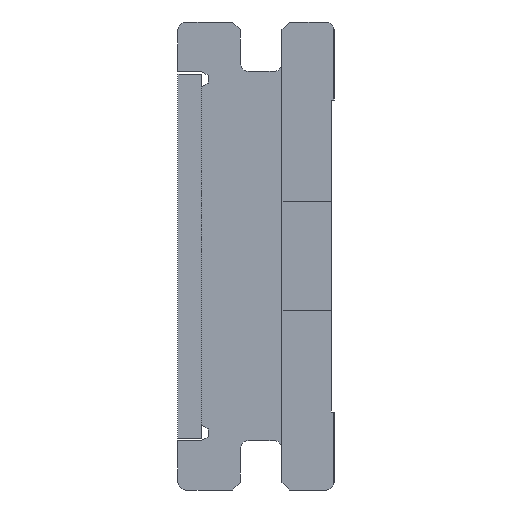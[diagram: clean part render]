
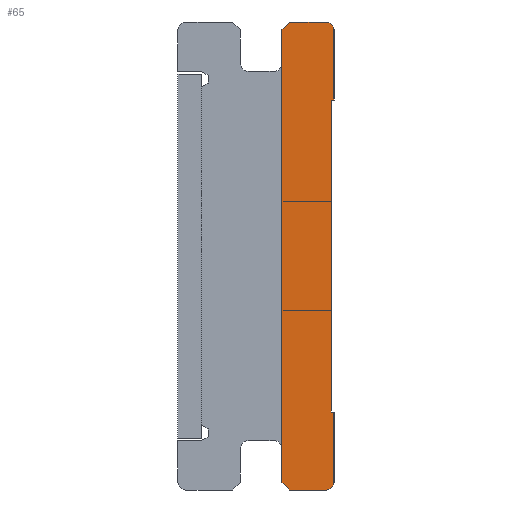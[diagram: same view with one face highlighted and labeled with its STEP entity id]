
A CAD part, left-side view. The second image highlights one B-rep face of the part: STEP entity #65.
In plain terms, the highlighted planar face has unit normal (-1, 0, 0).
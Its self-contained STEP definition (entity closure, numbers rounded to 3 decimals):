
#26 = CARTESIAN_POINT ( 'NONE',  ( 0., 0.1, -15. ) ) ;
#28 = VERTEX_POINT ( 'NONE', #537 ) ;
#55 = LINE ( 'NONE', #1929, #1156 ) ;
#65 = ADVANCED_FACE ( 'NONE', ( #2035 ), #1831, .F. ) ;
#109 = LINE ( 'NONE', #135, #1842 ) ;
#122 = CARTESIAN_POINT ( 'NONE',  ( 0., 0.3, 0. ) ) ;
#135 = CARTESIAN_POINT ( 'NONE',  ( 0., 0., -15. ) ) ;
#170 = VERTEX_POINT ( 'NONE', #1431 ) ;
#182 = LINE ( 'NONE', #937, #1981 ) ;
#188 = EDGE_CURVE ( 'NONE', #1718, #432, #1445, .T. ) ;
#201 = EDGE_LOOP ( 'NONE', ( #1046, #1067, #2402, #655, #2123, #886, #2163, #1184, #2041, #511, #1179, #1588 ) ) ;
#245 = CARTESIAN_POINT ( 'NONE',  ( 0., 1.7, -18. ) ) ;
#250 = VECTOR ( 'NONE', #1751, 1000. ) ;
#286 = CIRCLE ( 'NONE', #604, 0.3 ) ;
#299 = LINE ( 'NONE', #1409, #250 ) ;
#311 = VERTEX_POINT ( 'NONE', #574 ) ;
#315 = DIRECTION ( 'NONE',  ( 0., 0., -1. ) ) ;
#432 = VERTEX_POINT ( 'NONE', #2375 ) ;
#444 = DIRECTION ( 'NONE',  ( 0., 1., 0. ) ) ;
#505 = LINE ( 'NONE', #122, #1424 ) ;
#511 = ORIENTED_EDGE ( 'NONE', *, *, #188, .F. ) ;
#537 = CARTESIAN_POINT ( 'NONE',  ( 0., 0., -15. ) ) ;
#574 = CARTESIAN_POINT ( 'NONE',  ( 0., 2., -17.7 ) ) ;
#604 = AXIS2_PLACEMENT_3D ( 'NONE', #2331, #799, #822 ) ;
#630 = EDGE_CURVE ( 'NONE', #2379, #311, #182, .T. ) ;
#655 = ORIENTED_EDGE ( 'NONE', *, *, #2378, .F. ) ;
#684 = LINE ( 'NONE', #2032, #919 ) ;
#709 = LINE ( 'NONE', #1318, #996 ) ;
#722 = CARTESIAN_POINT ( 'NONE',  ( 0., 5.1, -15.8 ) ) ;
#730 = EDGE_CURVE ( 'NONE', #1198, #1311, #2361, .T. ) ;
#734 = DIRECTION ( 'NONE',  ( 1., 0., 0. ) ) ;
#799 = DIRECTION ( 'NONE',  ( 1., 0., 0. ) ) ;
#822 = DIRECTION ( 'NONE',  ( 0., 0., -1. ) ) ;
#864 = CIRCLE ( 'NONE', #2270, 0.3 ) ;
#886 = ORIENTED_EDGE ( 'NONE', *, *, #2117, .F. ) ;
#893 = CARTESIAN_POINT ( 'NONE',  ( 0., 0.3, 0. ) ) ;
#919 = VECTOR ( 'NONE', #2394, 1000. ) ;
#929 = EDGE_CURVE ( 'NONE', #1143, #1718, #864, .T. ) ;
#933 = CARTESIAN_POINT ( 'NONE',  ( 0., 0.3, -0.3 ) ) ;
#937 = CARTESIAN_POINT ( 'NONE',  ( 0., 1.7, -18. ) ) ;
#943 = CARTESIAN_POINT ( 'NONE',  ( 0., 0., -17.7 ) ) ;
#996 = VECTOR ( 'NONE', #1707, 1000. ) ;
#1037 = CARTESIAN_POINT ( 'NONE',  ( 0., 1.7, 0. ) ) ;
#1046 = ORIENTED_EDGE ( 'NONE', *, *, #730, .F. ) ;
#1067 = ORIENTED_EDGE ( 'NONE', *, *, #1778, .F. ) ;
#1084 = EDGE_CURVE ( 'NONE', #1311, #1143, #505, .T. ) ;
#1086 = VERTEX_POINT ( 'NONE', #2370 ) ;
#1143 = VERTEX_POINT ( 'NONE', #893 ) ;
#1156 = VECTOR ( 'NONE', #444, 1000. ) ;
#1162 = DIRECTION ( 'NONE',  ( 0., 0., -1. ) ) ;
#1179 = ORIENTED_EDGE ( 'NONE', *, *, #929, .F. ) ;
#1184 = ORIENTED_EDGE ( 'NONE', *, *, #1904, .F. ) ;
#1185 = LINE ( 'NONE', #1368, #2358 ) ;
#1198 = VERTEX_POINT ( 'NONE', #1320 ) ;
#1248 = DIRECTION ( 'NONE',  ( 0., -1., 0. ) ) ;
#1259 = VECTOR ( 'NONE', #315, 1000. ) ;
#1286 = DIRECTION ( 'NONE',  ( 1., 0., 0. ) ) ;
#1311 = VERTEX_POINT ( 'NONE', #1442 ) ;
#1318 = CARTESIAN_POINT ( 'NONE',  ( 0., 2., -17.7 ) ) ;
#1320 = CARTESIAN_POINT ( 'NONE',  ( 0., 2., -0.3 ) ) ;
#1368 = CARTESIAN_POINT ( 'NONE',  ( 0., 0.1, -3. ) ) ;
#1409 = CARTESIAN_POINT ( 'NONE',  ( 0., 0.3, -18. ) ) ;
#1424 = VECTOR ( 'NONE', #1248, 1000. ) ;
#1431 = CARTESIAN_POINT ( 'NONE',  ( 0., 0.1, -3. ) ) ;
#1442 = CARTESIAN_POINT ( 'NONE',  ( 0., 1.7, 0. ) ) ;
#1445 = LINE ( 'NONE', #1653, #1259 ) ;
#1456 = VERTEX_POINT ( 'NONE', #26 ) ;
#1475 = DIRECTION ( 'NONE',  ( 0., 0., 1. ) ) ;
#1588 = ORIENTED_EDGE ( 'NONE', *, *, #1084, .F. ) ;
#1653 = CARTESIAN_POINT ( 'NONE',  ( 0., 0., -0.3 ) ) ;
#1694 = EDGE_CURVE ( 'NONE', #1456, #28, #109, .T. ) ;
#1707 = DIRECTION ( 'NONE',  ( 0., 0., 1. ) ) ;
#1718 = VERTEX_POINT ( 'NONE', #2100 ) ;
#1751 = DIRECTION ( 'NONE',  ( 0., 1., 0. ) ) ;
#1769 = VERTEX_POINT ( 'NONE', #943 ) ;
#1778 = EDGE_CURVE ( 'NONE', #311, #1198, #709, .T. ) ;
#1829 = EDGE_CURVE ( 'NONE', #432, #170, #55, .T. ) ;
#1831 = PLANE ( 'NONE',  #2462 ) ;
#1842 = VECTOR ( 'NONE', #2398, 1000. ) ;
#1858 = VECTOR ( 'NONE', #1961, 1000. ) ;
#1860 = EDGE_CURVE ( 'NONE', #1769, #1086, #286, .T. ) ;
#1904 = EDGE_CURVE ( 'NONE', #170, #1456, #1185, .T. ) ;
#1910 = DIRECTION ( 'NONE',  ( 0., 0.707, 0.707 ) ) ;
#1929 = CARTESIAN_POINT ( 'NONE',  ( 0., 0., -3. ) ) ;
#1961 = DIRECTION ( 'NONE',  ( 0., -0.707, 0.707 ) ) ;
#1981 = VECTOR ( 'NONE', #1910, 1000. ) ;
#2032 = CARTESIAN_POINT ( 'NONE',  ( 0., 0., -15. ) ) ;
#2035 = FACE_OUTER_BOUND ( 'NONE', #201, .T. ) ;
#2041 = ORIENTED_EDGE ( 'NONE', *, *, #1829, .F. ) ;
#2100 = CARTESIAN_POINT ( 'NONE',  ( 0., 0., -0.3 ) ) ;
#2117 = EDGE_CURVE ( 'NONE', #28, #1769, #684, .T. ) ;
#2123 = ORIENTED_EDGE ( 'NONE', *, *, #1860, .F. ) ;
#2163 = ORIENTED_EDGE ( 'NONE', *, *, #1694, .F. ) ;
#2267 = DIRECTION ( 'NONE',  ( 0., 1., 0. ) ) ;
#2270 = AXIS2_PLACEMENT_3D ( 'NONE', #933, #1286, #1475 ) ;
#2331 = CARTESIAN_POINT ( 'NONE',  ( 0., 0.3, -17.7 ) ) ;
#2358 = VECTOR ( 'NONE', #1162, 1000. ) ;
#2361 = LINE ( 'NONE', #1037, #1858 ) ;
#2370 = CARTESIAN_POINT ( 'NONE',  ( 0., 0.3, -18. ) ) ;
#2375 = CARTESIAN_POINT ( 'NONE',  ( 0., 0., -3. ) ) ;
#2378 = EDGE_CURVE ( 'NONE', #1086, #2379, #299, .T. ) ;
#2379 = VERTEX_POINT ( 'NONE', #245 ) ;
#2394 = DIRECTION ( 'NONE',  ( 0., 0., -1. ) ) ;
#2398 = DIRECTION ( 'NONE',  ( 0., -1., 0. ) ) ;
#2402 = ORIENTED_EDGE ( 'NONE', *, *, #630, .F. ) ;
#2462 = AXIS2_PLACEMENT_3D ( 'NONE', #722, #734, #2267 ) ;
